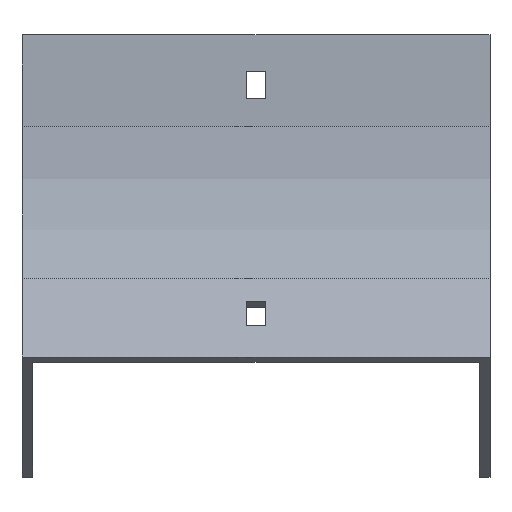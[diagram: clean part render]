
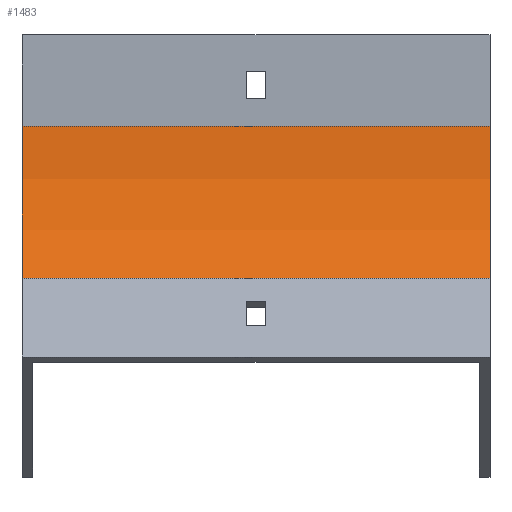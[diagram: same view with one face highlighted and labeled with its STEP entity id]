
A CAD part, front view. The second image highlights one B-rep face of the part: STEP entity #1483.
In plain terms, the highlighted cylindrical face has radius 100 mm (diameter 200 mm), a partial arc.
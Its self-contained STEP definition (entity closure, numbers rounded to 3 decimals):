
#23 = EDGE_CURVE ( 'NONE', #1444, #611, #1521, .T. ) ;
#26 = CIRCLE ( 'NONE', #1119, 100. ) ;
#40 = CARTESIAN_POINT ( 'NONE',  ( 77., 0., -30. ) ) ;
#99 = CARTESIAN_POINT ( 'NONE',  ( 77., -13.397, -80. ) ) ;
#103 = EDGE_CURVE ( 'NONE', #838, #611, #1108, .T. ) ;
#230 = CARTESIAN_POINT ( 'NONE',  ( 77., -100., -30. ) ) ;
#303 = ORIENTED_EDGE ( 'NONE', *, *, #103, .F. ) ;
#353 = DIRECTION ( 'NONE',  ( 0., 0., 1. ) ) ;
#372 = CYLINDRICAL_SURFACE ( 'NONE', #486, 100. ) ;
#374 = CARTESIAN_POINT ( 'NONE',  ( 77., -13.397, -80. ) ) ;
#390 = EDGE_CURVE ( 'NONE', #1469, #838, #26, .T. ) ;
#415 = ORIENTED_EDGE ( 'NONE', *, *, #513, .T. ) ;
#486 = AXIS2_PLACEMENT_3D ( 'NONE', #230, #960, #792 ) ;
#508 = ORIENTED_EDGE ( 'NONE', *, *, #23, .T. ) ;
#513 = EDGE_CURVE ( 'NONE', #1469, #1444, #1355, .T. ) ;
#554 = CARTESIAN_POINT ( 'NONE',  ( -77., -100., -30. ) ) ;
#611 = VERTEX_POINT ( 'NONE', #947 ) ;
#625 = VECTOR ( 'NONE', #1434, 1000. ) ;
#780 = EDGE_LOOP ( 'NONE', ( #508, #303, #1768, #415 ) ) ;
#792 = DIRECTION ( 'NONE',  ( 0., 0., 1. ) ) ;
#802 = DIRECTION ( 'NONE',  ( -1., 0., 0. ) ) ;
#838 = VERTEX_POINT ( 'NONE', #99 ) ;
#947 = CARTESIAN_POINT ( 'NONE',  ( -77., -13.397, -80. ) ) ;
#959 = CARTESIAN_POINT ( 'NONE',  ( 77., -100., -30. ) ) ;
#960 = DIRECTION ( 'NONE',  ( -1., 0., 0. ) ) ;
#996 = DIRECTION ( 'NONE',  ( -1., 0., 0. ) ) ;
#1048 = DIRECTION ( 'NONE',  ( -1., 0., 0. ) ) ;
#1071 = CARTESIAN_POINT ( 'NONE',  ( -77., 0., -30. ) ) ;
#1080 = FACE_OUTER_BOUND ( 'NONE', #780, .T. ) ;
#1108 = LINE ( 'NONE', #374, #625 ) ;
#1119 = AXIS2_PLACEMENT_3D ( 'NONE', #959, #802, #353 ) ;
#1240 = AXIS2_PLACEMENT_3D ( 'NONE', #554, #996, #1897 ) ;
#1355 = LINE ( 'NONE', #40, #1367 ) ;
#1367 = VECTOR ( 'NONE', #1048, 1000. ) ;
#1404 = CARTESIAN_POINT ( 'NONE',  ( 77., 0., -30. ) ) ;
#1434 = DIRECTION ( 'NONE',  ( -1., 0., 0. ) ) ;
#1444 = VERTEX_POINT ( 'NONE', #1071 ) ;
#1469 = VERTEX_POINT ( 'NONE', #1404 ) ;
#1483 = ADVANCED_FACE ( 'NONE', ( #1080 ), #372, .F. ) ;
#1521 = CIRCLE ( 'NONE', #1240, 100. ) ;
#1768 = ORIENTED_EDGE ( 'NONE', *, *, #390, .F. ) ;
#1897 = DIRECTION ( 'NONE',  ( 0., 0., 1. ) ) ;
